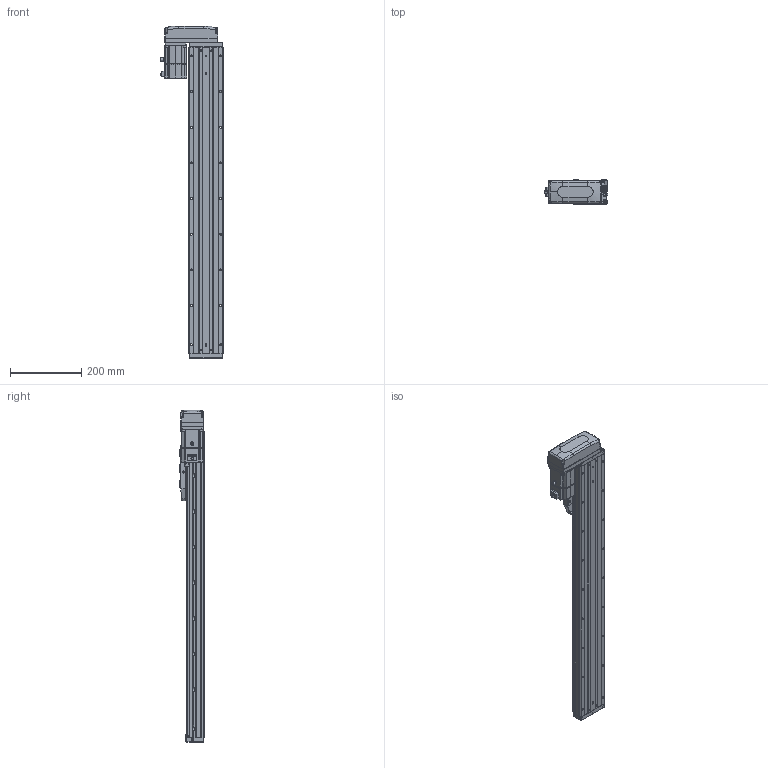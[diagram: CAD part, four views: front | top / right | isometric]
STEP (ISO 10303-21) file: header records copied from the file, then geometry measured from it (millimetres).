
FILE_DESCRIPTION (( 'STEP AP203' ), '1' );
FILE_NAME ('CTHA100-650-BL-M20-C4L.step', '2022-07-06T09:09:33', ( '微软用户' ), ( '微软中国' ), 'SwSTEP 2.0', 'SolidWorks 2020', '' );
FILE_SCHEMA (( 'CONFIG_CONTROL_DESIGN' ));
Length unit declared in the file: millimetre
Products named in the file (19): CTHA60-017; CTHA100-002; CTHA60-021; CTHA100-031; KTHA100-001_860; GBT77-2000 M3×3; CTHA86-030; KTHA100-004; GBT 70.1-M3℅6; GBT 70.3-M3℅6; KTHA100-005; GBT70.1 M5℅16; CTHA86-015-1_CTHA86-015-2; GB¨uT 70.2-M3¡Á5_M3¡Á6; CTHA60-016; CTHA86-033; EE_SX911P_R; _X2_4E0983F1_X0_200W_1; CTHA100-650-BL-M20-C4L
Assembly tree (64 placements, depth 2):
  CTHA100-650-BL-M20-C4L
    KTHA100-001_860
    KTHA100-004
    KTHA100-005
    GB¨uT 70.2-M3¡Á5_M3¡Á6  x10
    EE_SX911P_R  x3
    CTHA60-017  x3
    CTHA60-021  x2
    GBT77-2000 M3×3  x6
    GBT 70.1-M3℅6  x10
    GBT70.1 M5℅16  x14
    CTHA60-016  x2
    _X2_4E0983F1_X0_200W_1
    CTHA100-002
    CTHA100-031
    CTHA86-030  x2
    GBT 70.3-M3℅6  x4
    CTHA86-015-1_CTHA86-015-2
    CTHA86-033
Bounding box: 178.52 x 68 x 931 mm (x, y, z)
Volume: 3915309 mm3; surface area: 660881.6 mm2
Topology: 66 solids, 66 shells, 2689 faces, 6471 edges, 4012 vertices
Faces by surface type: plane 1404, cylinder 707, cone 355, torus 124, bspline 75, sphere 24
Entity records: 46638 total; most frequent: CARTESIAN_POINT 9147, DIRECTION 7204, ORIENTED_EDGE 7058, EDGE_CURVE 3529, AXIS2_PLACEMENT_3D 2441, VECTOR 2322, LINE 2322, VERTEX_POINT 2232
